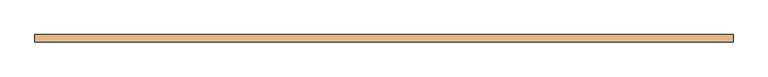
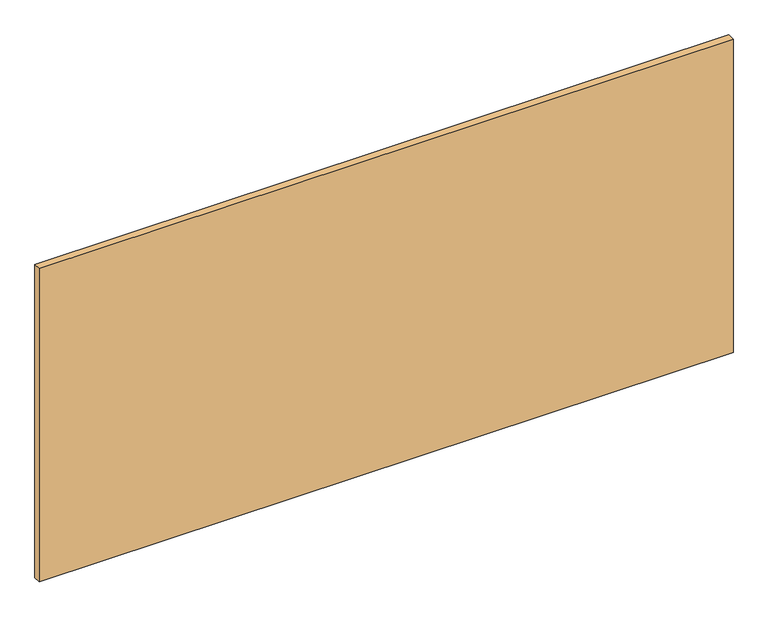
"""IFC4 building model written with IfcOpenShell, lengths in millimetres: door geometry, Puerta elevada articulada : Puerta Plagadiza 4.92x2.35 m."""

import ifcopenshell
import ifcopenshell.guid

model = None  # the IFC model being written
_history = None  # IfcOwnerHistory: only IFC2X3 demands one
_inside = {}  # id of a spatial element -> (the spatial element, [elements in it])
_under = {}  # id of a project, library or spatial element -> (it, [spatial elements below it])
_declared = {}  # id of a project -> (the project, [libraries it declares])
_typed = {}  # id of a type object -> (the type object, [elements of that type])
_made_of = {}  # id of a material, layer set ... -> (it, [elements and type objects made of it])


def new_model(schema):
    """Start an empty IFC model of exactly this schema.

    Asked for "IFC4X3", IfcOpenShell would pick the latest addendum, in which some entities
    have other attributes; the version numbers below select the first issue.
    IFC2X3 requires an IfcOwnerHistory on every rooted entity: one is made here for all.
    """
    global model, _history
    if schema == "IFC4X3":
        model = ifcopenshell.file(schema_version=(4, 3, 0, 0))
    else:
        model = ifcopenshell.file(schema=schema)
    _inside.clear()
    _under.clear()
    _declared.clear()
    _typed.clear()
    _made_of.clear()
    _history = None
    if model.schema == "IFC2X3":
        org = make("IfcOrganization", Name="unknown")
        user = make(
            "IfcPersonAndOrganization",
            ThePerson=make("IfcPerson", FamilyName="unknown"),
            TheOrganization=org,
        )
        app = make(
            "IfcApplication",
            ApplicationDeveloper=org,
            Version="unknown",
            ApplicationFullName="unknown",
            ApplicationIdentifier="unknown",
        )
        _history = make(
            "IfcOwnerHistory",
            OwningUser=user,
            OwningApplication=app,
            ChangeAction="ADDED",
            CreationDate=0,
        )
    return model


def make(cls, **values):
    """One entity of the class cls with the attributes given. An attribute that is None is left unset."""
    return model.create_entity(
        cls, **{name: value for name, value in values.items() if value is not None}
    )


def rooted(cls, **values):
    """An entity with a GlobalId (a new one), such as an element, a storey or a relation."""
    return make(cls, GlobalId=ifcopenshell.guid.new(), OwnerHistory=_history, **values)


def si_unit(unit_type, name, prefix=None):
    """IfcSIUnit, for example si_unit("LENGTHUNIT", "METRE", prefix="MILLI")."""
    return make("IfcSIUnit", UnitType=unit_type, Prefix=prefix, Name=name)


def assignment(units):
    """IfcUnitAssignment: the units of a project."""
    return None if units is None else make("IfcUnitAssignment", Units=units)


def point(xyz):
    """IfcCartesianPoint."""
    return None if xyz is None else make("IfcCartesianPoint", Coordinates=xyz)


def direction(xyz):
    """IfcDirection."""
    return None if xyz is None else make("IfcDirection", DirectionRatios=xyz)


def frame(location, z_axis=None, x_axis=None):
    """IfcAxis2Placement3D, a coordinate frame: its origin and axes. An axis left out is left unset."""
    return make(
        "IfcAxis2Placement3D",
        Location=point(location),
        Axis=direction(z_axis),
        RefDirection=direction(x_axis),
    )


def origin():
    """The frame at (0, 0, 0) with its axes left unset."""
    return frame((0.0, 0.0, 0.0))


def origin_with_axes():
    """The frame at (0, 0, 0) with the z axis (0, 0, 1) and the x axis (1, 0, 0) written out."""
    return frame((0.0, 0.0, 0.0), z_axis=(0.0, 0.0, 1.0), x_axis=(1.0, 0.0, 0.0))


def place(relative_to, where):
    """IfcLocalPlacement: puts the frame where relative to a parent placement (None: the world)."""
    return make(
        "IfcLocalPlacement", PlacementRelTo=relative_to, RelativePlacement=where
    )


def context(
    kind, dimensions, precision=None, world=None, true_north=None, identifier=None
):
    """IfcGeometricRepresentationContext, for example the 3D "Model" context."""
    return make(
        "IfcGeometricRepresentationContext",
        ContextIdentifier=identifier,
        ContextType=kind,
        CoordinateSpaceDimension=dimensions,
        Precision=precision,
        WorldCoordinateSystem=world,
        TrueNorth=true_north,
    )


def project(units=None, contexts=None):
    """IfcProject with its units and contexts."""
    return rooted(
        "IfcProject",
        Name="project",
        RepresentationContexts=contexts,
        UnitsInContext=assignment(units),
    )


def spatial(cls, under=None, at=None, **own):
    """A site, building, storey or space (cls), placed at a placement, below another one or the project."""
    s = rooted(cls, ObjectPlacement=at, **own)
    if under is not None:
        _under.setdefault(under.id(), (under, []))[1].append(s)
    return s


def polyline(points):
    """IfcPolyline through the points."""
    return make("IfcPolyline", Points=[point(p) for p in points])


def outline(outer, holes=None, kind="AREA"):
    """IfcArbitraryClosedProfileDef: a profile drawn as a closed curve; with holes, ...WithVoids."""
    if holes is None:
        return make("IfcArbitraryClosedProfileDef", ProfileType=kind, OuterCurve=outer)
    return make(
        "IfcArbitraryProfileDefWithVoids",
        ProfileType=kind,
        OuterCurve=outer,
        InnerCurves=holes,
    )


def extrude(swept, where, along, depth):
    """IfcExtrudedAreaSolid: the profile swept, set in the frame where, extruded along a direction by depth."""
    return make(
        "IfcExtrudedAreaSolid",
        SweptArea=swept,
        Position=where,
        ExtrudedDirection=direction(along),
        Depth=depth,
    )


def shape(context_of_items, identifier, shape_type, items):
    """IfcShapeRepresentation: the items that make up one representation, for example the "Body"."""
    return make(
        "IfcShapeRepresentation",
        ContextOfItems=context_of_items,
        RepresentationIdentifier=identifier,
        RepresentationType=shape_type,
        Items=items,
    )


def source(mapping_origin, context_of_items, identifier, shape_type, items):
    """IfcRepresentationMap: a shape defined once, which mapped items show again and again."""
    return make(
        "IfcRepresentationMap",
        MappingOrigin=mapping_origin,
        MappedRepresentation=shape(context_of_items, identifier, shape_type, items),
    )


def transform(
    local_origin,
    x_axis=None,
    y_axis=None,
    z_axis=None,
    scale=None,
    scale2=None,
    scale3=None,
    uniform=True,
):
    """IfcCartesianTransformationOperator3D, or its non-uniform kind. x_axis, y_axis, z_axis: its Axis1, 2, 3."""
    if uniform:
        return make(
            "IfcCartesianTransformationOperator3D",
            Axis1=direction(x_axis),
            Axis2=direction(y_axis),
            LocalOrigin=point(local_origin),
            Scale=scale,
            Axis3=direction(z_axis),
        )
    return make(
        "IfcCartesianTransformationOperator3DnonUniform",
        Axis1=direction(x_axis),
        Axis2=direction(y_axis),
        LocalOrigin=point(local_origin),
        Scale=scale,
        Axis3=direction(z_axis),
        Scale2=scale2,
        Scale3=scale3,
    )


def mapped(mapping_source, mapping_target):
    """IfcMappedItem: shows the shape of a source again, moved by a transform."""
    return make(
        "IfcMappedItem", MappingSource=mapping_source, MappingTarget=mapping_target
    )


def made_of(thing, what):
    """Note that an element or type object is made of a material, layer set ...; save() writes the relation."""
    if what is not None:
        _made_of.setdefault(what.id(), (what, []))[1].append(thing)
    return thing


def element(
    cls,
    number,
    at=None,
    inside=None,
    cuts=None,
    type_object=None,
    material=None,
    context=None,
    identifier="Body",
    shape_type=None,
    held_by="IfcProductDefinitionShape",
    body=None,
    shapes=None,
    **own,
):
    """One element of the class cls, such as IfcWall. Its Tag is "e" and its number.

    at: its placement. inside: the storey or other place that contains it. cuts: it is an
    opening in that element (IfcRelVoidsElement). A single representation is given by context,
    identifier, shape_type and body (its items); several are given by shapes. held_by: the class
    of the entity that holds the representations. save() writes the other relations.
    """
    e = rooted(cls, Tag="e%d" % number, ObjectPlacement=at, **own)
    if body is not None:
        shapes = [shape(context, identifier, shape_type, body)]
    if shapes is not None:
        e.Representation = make(held_by, Representations=shapes)
    if inside is not None:
        _inside.setdefault(inside.id(), (inside, []))[1].append(e)
    if cuts is not None:
        rooted(
            "IfcRelVoidsElement", RelatingBuildingElement=cuts, RelatedOpeningElement=e
        )
    if type_object is not None:
        _typed.setdefault(type_object.id(), (type_object, []))[1].append(e)
    return made_of(e, material)


def aggregate(whole, parts):
    """IfcRelAggregates: a whole, such as a stair, and the parts it consists of."""
    return rooted("IfcRelAggregates", RelatingObject=whole, RelatedObjects=parts)


def save(model, path):
    """Write the relations noted so far, then the file.

    IfcRelAggregates (storeys below a building ...), IfcRelContainedInSpatialStructure (elements
    in a storey), IfcRelDefinesByType, IfcRelAssociatesMaterial and IfcRelDeclares: one each for
    every whole, place, type object, material and project.
    """
    for whole, parts in _under.values():
        aggregate(whole, parts)
    for where, things in _inside.values():
        rooted(
            "IfcRelContainedInSpatialStructure",
            RelatedElements=things,
            RelatingStructure=where,
        )
    for kind, things in _typed.values():
        rooted("IfcRelDefinesByType", RelatedObjects=things, RelatingType=kind)
    for what, things in _made_of.values():
        rooted("IfcRelAssociatesMaterial", RelatedObjects=things, RelatingMaterial=what)
    for by, libraries in _declared.values():
        rooted("IfcRelDeclares", RelatingContext=by, RelatedDefinitions=libraries)
    model.write(path)


def door_9dd3754a(model_context):
    return source(origin(), model_context, "Body", "SweptSolid", [
        extrude(outline(polyline([(2460.0, -75.0), (2460.0, -126.0), (-2460.0, -126.0), (-2460.0, -75.0), (2460.0, -75.0)])), origin_with_axes(), (0.0, 0.0, 1.0), 2350.0),
    ])


if __name__ == "__main__":
    model = new_model("IFC4")
    model_context = context("Model", 3, world=origin())
    ifc_project = project(units=[si_unit("LENGTHUNIT", "METRE", prefix="MILLI")], contexts=[model_context])
    site = spatial("IfcSite", under=ifc_project)
    building = spatial("IfcBuilding", under=site)
    placement = place(None, origin())
    door_shape = door_9dd3754a(model_context)
    element("IfcDoor", 1, ObjectType="Puerta elevada articulada : Puerta Plagadiza 4.92x2.35 m", at=placement, inside=building, context=model_context, shape_type="MappedRepresentation", body=[
        mapped(door_shape, transform((0.0, 0.0, 0.0), x_axis=(1.0, 0.0, 0.0), y_axis=(0.0, 1.0, 0.0), z_axis=(0.0, 0.0, 1.0))),
    ])
    save(model, "model.ifc")
